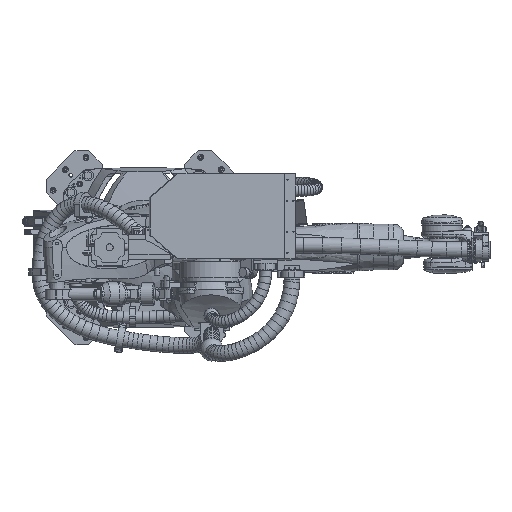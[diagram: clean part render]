
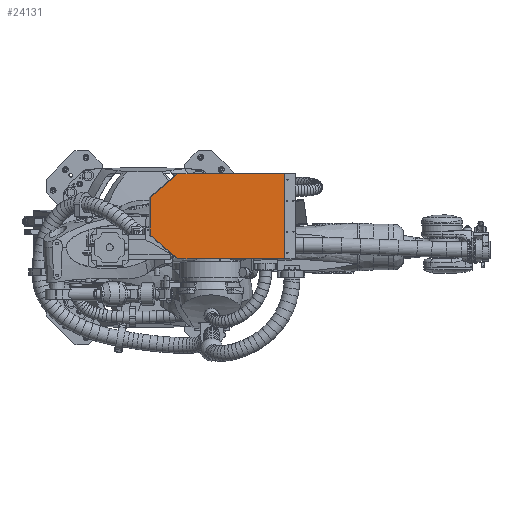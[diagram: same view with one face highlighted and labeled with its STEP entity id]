
A CAD part, top view. The second image highlights one B-rep face of the part: STEP entity #24131.
In plain terms, the highlighted planar face has unit normal (0.035, 0, 0.999).
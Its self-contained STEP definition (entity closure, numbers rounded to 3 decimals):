
#24131=ADVANCED_FACE('',(#28821),#26994,.T.);
#26994=PLANE('',#74923);
#28821=FACE_OUTER_BOUND('',#31984,.T.);
#31984=EDGE_LOOP('',(#41362,#41363,#41364,#41365,#41366,#41367));
#41362=ORIENTED_EDGE('',*,*,#57203,.T.);
#41363=ORIENTED_EDGE('',*,*,#57204,.T.);
#41364=ORIENTED_EDGE('',*,*,#57205,.F.);
#41365=ORIENTED_EDGE('',*,*,#57176,.F.);
#41366=ORIENTED_EDGE('',*,*,#57202,.T.);
#41367=ORIENTED_EDGE('',*,*,#57206,.T.);
#51134=VERTEX_POINT('',#124108);
#51135=VERTEX_POINT('',#124110);
#51156=VERTEX_POINT('',#124175);
#51157=VERTEX_POINT('',#124179);
#51158=VERTEX_POINT('',#124180);
#51159=VERTEX_POINT('',#124182);
#57176=EDGE_CURVE('',#51134,#51135,#63136,.T.);
#57202=EDGE_CURVE('',#51134,#51156,#63146,.T.);
#57203=EDGE_CURVE('',#51157,#51158,#63147,.T.);
#57204=EDGE_CURVE('',#51158,#51159,#63148,.T.);
#57205=EDGE_CURVE('',#51135,#51159,#63149,.T.);
#57206=EDGE_CURVE('',#51156,#51157,#63150,.T.);
#63136=LINE('',#124109,#66691);
#63146=LINE('',#124176,#66701);
#63147=LINE('',#124178,#66702);
#63148=LINE('',#124181,#66703);
#63149=LINE('',#124183,#66704);
#63150=LINE('',#124184,#66705);
#66691=VECTOR('',#84302,1.);
#66701=VECTOR('',#84382,1.);
#66702=VECTOR('',#84385,1.);
#66703=VECTOR('',#84386,1.);
#66704=VECTOR('',#84387,1.);
#66705=VECTOR('',#84388,1.);
#74923=AXIS2_PLACEMENT_3D('',#124185,#84389,#84390);
#84302=DIRECTION('',(0.,-1.,0.));
#84382=DIRECTION('',(-0.999,0.,0.035));
#84385=DIRECTION('',(0.,-1.,0.));
#84386=DIRECTION('',(0.766,-0.643,-0.027));
#84387=DIRECTION('',(-0.999,0.,0.035));
#84388=DIRECTION('',(-0.766,-0.643,0.027));
#84389=DIRECTION('',(0.035,0.,0.999));
#84390=DIRECTION('',(0.999,0.,-0.035));
#124108=CARTESIAN_POINT('',(734.091,378.5,2122.276));
#124109=CARTESIAN_POINT('',(734.091,378.5,2122.276));
#124110=CARTESIAN_POINT('',(734.091,-60.5,2122.276));
#124175=CARTESIAN_POINT('',(179.429,378.5,2141.645));
#124176=CARTESIAN_POINT('',(34.518,378.5,2146.706));
#124178=CARTESIAN_POINT('',(34.518,378.5,2146.706));
#124179=CARTESIAN_POINT('',(34.518,256.831,2146.706));
#124180=CARTESIAN_POINT('',(34.518,61.169,2146.706));
#124181=CARTESIAN_POINT('',(288.885,-152.4,2137.823));
#124182=CARTESIAN_POINT('',(179.429,-60.5,2141.645));
#124183=CARTESIAN_POINT('',(34.518,-60.5,2146.706));
#124184=CARTESIAN_POINT('',(504.918,651.784,2130.279));
#124185=CARTESIAN_POINT('',(734.091,378.5,2122.276));
